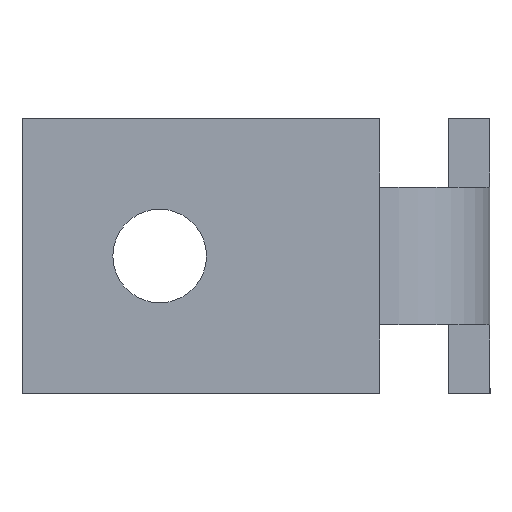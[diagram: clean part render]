
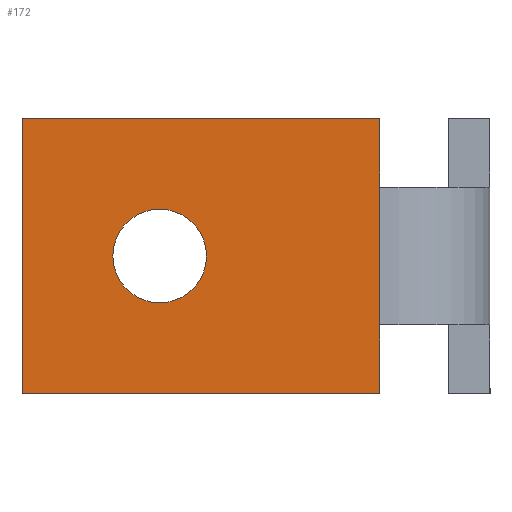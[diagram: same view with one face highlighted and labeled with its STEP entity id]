
A CAD part, front view. The second image highlights one B-rep face of the part: STEP entity #172.
In plain terms, the highlighted planar face has unit normal (0, -1, 0).
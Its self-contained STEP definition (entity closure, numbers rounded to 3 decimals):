
#18 = AXIS2_PLACEMENT_3D ( 'NONE', #776, #193, #417 ) ;
#20 = CARTESIAN_POINT ( 'NONE',  ( 0., 0., 10. ) ) ;
#21 = VERTEX_POINT ( 'NONE', #549 ) ;
#34 = ORIENTED_EDGE ( 'NONE', *, *, #688, .F. ) ;
#39 = CARTESIAN_POINT ( 'NONE',  ( 0., 0., 10. ) ) ;
#80 = CARTESIAN_POINT ( 'NONE',  ( 26., 0., 10. ) ) ;
#111 = VERTEX_POINT ( 'NONE', #20 ) ;
#172 = ADVANCED_FACE ( 'NONE', ( #336, #847 ), #925, .F. ) ;
#193 = DIRECTION ( 'NONE',  ( 0., 1., 0. ) ) ;
#201 = LINE ( 'NONE', #734, #228 ) ;
#206 = DIRECTION ( 'NONE',  ( 0., 0., 1. ) ) ;
#215 = CARTESIAN_POINT ( 'NONE',  ( 26., 0., 5. ) ) ;
#228 = VECTOR ( 'NONE', #808, 1000. ) ;
#237 = VERTEX_POINT ( 'NONE', #849 ) ;
#255 = ORIENTED_EDGE ( 'NONE', *, *, #880, .F. ) ;
#271 = CIRCLE ( 'NONE', #324, 3.4 ) ;
#278 = CARTESIAN_POINT ( 'NONE',  ( 26., 0., -10. ) ) ;
#313 = EDGE_CURVE ( 'NONE', #501, #530, #576, .T. ) ;
#324 = AXIS2_PLACEMENT_3D ( 'NONE', #390, #402, #912 ) ;
#336 = FACE_BOUND ( 'NONE', #830, .T. ) ;
#340 = LINE ( 'NONE', #215, #743 ) ;
#348 = CARTESIAN_POINT ( 'NONE',  ( 0., 0., -10. ) ) ;
#349 = ORIENTED_EDGE ( 'NONE', *, *, #369, .F. ) ;
#368 = VERTEX_POINT ( 'NONE', #563 ) ;
#369 = EDGE_CURVE ( 'NONE', #21, #530, #781, .T. ) ;
#390 = CARTESIAN_POINT ( 'NONE',  ( 10., 0., 0. ) ) ;
#392 = CARTESIAN_POINT ( 'NONE',  ( 26., 0., 10. ) ) ;
#396 = ORIENTED_EDGE ( 'NONE', *, *, #313, .T. ) ;
#402 = DIRECTION ( 'NONE',  ( 0., 1., 0. ) ) ;
#415 = DIRECTION ( 'NONE',  ( 0., 0., -1. ) ) ;
#416 = EDGE_CURVE ( 'NONE', #757, #368, #534, .T. ) ;
#417 = DIRECTION ( 'NONE',  ( 0., 0., 1. ) ) ;
#421 = CARTESIAN_POINT ( 'NONE',  ( 0., 0., -10. ) ) ;
#441 = VECTOR ( 'NONE', #523, 1000. ) ;
#452 = EDGE_CURVE ( 'NONE', #237, #21, #340, .T. ) ;
#456 = EDGE_LOOP ( 'NONE', ( #396, #349, #923, #255, #34, #894 ) ) ;
#470 = VECTOR ( 'NONE', #924, 1000. ) ;
#501 = VERTEX_POINT ( 'NONE', #421 ) ;
#510 = CARTESIAN_POINT ( 'NONE',  ( 10., 0., -3.4 ) ) ;
#523 = DIRECTION ( 'NONE',  ( 0., 0., -1. ) ) ;
#530 = VERTEX_POINT ( 'NONE', #278 ) ;
#534 = CIRCLE ( 'NONE', #18, 3.4 ) ;
#549 = CARTESIAN_POINT ( 'NONE',  ( 26., 0., -5. ) ) ;
#551 = CARTESIAN_POINT ( 'NONE',  ( 0., 0., 10. ) ) ;
#563 = CARTESIAN_POINT ( 'NONE',  ( 10., 0., 3.4 ) ) ;
#576 = LINE ( 'NONE', #348, #741 ) ;
#625 = LINE ( 'NONE', #392, #470 ) ;
#679 = CARTESIAN_POINT ( 'NONE',  ( 26., 0., 10. ) ) ;
#688 = EDGE_CURVE ( 'NONE', #111, #832, #201, .T. ) ;
#689 = DIRECTION ( 'NONE',  ( 0., 1., 0. ) ) ;
#734 = CARTESIAN_POINT ( 'NONE',  ( 0., 0., 10. ) ) ;
#741 = VECTOR ( 'NONE', #795, 1000. ) ;
#743 = VECTOR ( 'NONE', #946, 1000. ) ;
#757 = VERTEX_POINT ( 'NONE', #510 ) ;
#776 = CARTESIAN_POINT ( 'NONE',  ( 10., 0., 0. ) ) ;
#779 = ORIENTED_EDGE ( 'NONE', *, *, #893, .T. ) ;
#781 = LINE ( 'NONE', #80, #794 ) ;
#783 = EDGE_CURVE ( 'NONE', #111, #501, #796, .T. ) ;
#787 = ORIENTED_EDGE ( 'NONE', *, *, #416, .T. ) ;
#794 = VECTOR ( 'NONE', #415, 1000. ) ;
#795 = DIRECTION ( 'NONE',  ( 1., 0., 0. ) ) ;
#796 = LINE ( 'NONE', #39, #441 ) ;
#808 = DIRECTION ( 'NONE',  ( 1., 0., 0. ) ) ;
#820 = AXIS2_PLACEMENT_3D ( 'NONE', #551, #689, #206 ) ;
#830 = EDGE_LOOP ( 'NONE', ( #779, #787 ) ) ;
#832 = VERTEX_POINT ( 'NONE', #679 ) ;
#847 = FACE_OUTER_BOUND ( 'NONE', #456, .T. ) ;
#849 = CARTESIAN_POINT ( 'NONE',  ( 26., 0., 5. ) ) ;
#880 = EDGE_CURVE ( 'NONE', #832, #237, #625, .T. ) ;
#893 = EDGE_CURVE ( 'NONE', #368, #757, #271, .T. ) ;
#894 = ORIENTED_EDGE ( 'NONE', *, *, #783, .T. ) ;
#912 = DIRECTION ( 'NONE',  ( 0., 0., 1. ) ) ;
#923 = ORIENTED_EDGE ( 'NONE', *, *, #452, .F. ) ;
#924 = DIRECTION ( 'NONE',  ( 0., 0., -1. ) ) ;
#925 = PLANE ( 'NONE',  #820 ) ;
#946 = DIRECTION ( 'NONE',  ( 0., 0., -1. ) ) ;
